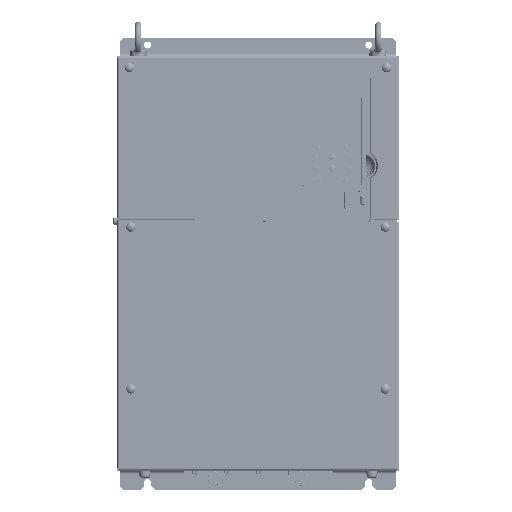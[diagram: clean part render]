
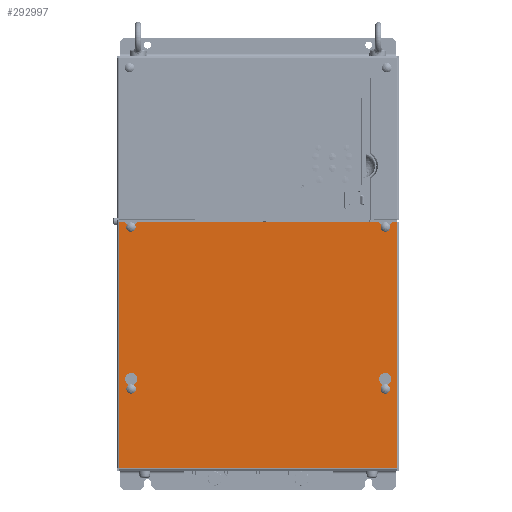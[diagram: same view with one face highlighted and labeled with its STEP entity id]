
A CAD part, top view. The second image highlights one B-rep face of the part: STEP entity #292997.
In plain terms, the highlighted planar face has unit normal (0, 0, 1) as drawn and (0, 1, 0) by its records, which use the part's own axes.
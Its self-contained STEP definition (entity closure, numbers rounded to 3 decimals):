
#292090=CARTESIAN_POINT('',(126.4,0.,-79.5));
#292091=DIRECTION('',(0.,1.,0.));
#292092=DIRECTION('',(-1.,0.,0.));
#292093=AXIS2_PLACEMENT_3D('',#292090,#292091,#292092);
#292095=DIRECTION('',(0.,0.,1.));
#292096=VECTOR('',#292095,4.804);
#292097=CARTESIAN_POINT('',(129.4,0.,-84.304));
#292098=LINE('',#292097,#292096);
#292099=CARTESIAN_POINT('',(126.4,0.,-89.5));
#292100=DIRECTION('',(0.,1.,0.));
#292101=DIRECTION('',(0.5,0.,0.866));
#292102=AXIS2_PLACEMENT_3D('',#292099,#292100,#292101);
#292104=DIRECTION('',(0.,0.,-1.));
#292105=VECTOR('',#292104,4.804);
#292106=CARTESIAN_POINT('',(123.4,0.,-79.5));
#292107=LINE('',#292106,#292105);
#292108=CARTESIAN_POINT('',(-126.4,0.,-79.5));
#292109=DIRECTION('',(0.,1.,0.));
#292110=DIRECTION('',(-1.,0.,0.));
#292111=AXIS2_PLACEMENT_3D('',#292108,#292109,#292110);
#292113=DIRECTION('',(0.,0.,1.));
#292114=VECTOR('',#292113,4.804);
#292115=CARTESIAN_POINT('',(-123.4,0.,-84.304));
#292116=LINE('',#292115,#292114);
#292117=CARTESIAN_POINT('',(-126.4,0.,-89.5));
#292118=DIRECTION('',(0.,1.,0.));
#292119=DIRECTION('',(0.5,0.,0.866));
#292120=AXIS2_PLACEMENT_3D('',#292117,#292118,#292119);
#292122=DIRECTION('',(0.,0.,-1.));
#292123=VECTOR('',#292122,4.804);
#292124=CARTESIAN_POINT('',(-129.4,0.,-79.5));
#292125=LINE('',#292124,#292123);
#292126=DIRECTION('',(-0.707,0.,-0.707));
#292127=VECTOR('',#292126,5.657);
#292128=CARTESIAN_POINT('',(123.5,0.,-241.7));
#292129=LINE('',#292128,#292127);
#292130=DIRECTION('',(0.,0.,1.));
#292131=VECTOR('',#292130,1.1);
#292132=CARTESIAN_POINT('',(123.5,0.,-241.7));
#292133=LINE('',#292132,#292131);
#292134=CARTESIAN_POINT('',(126.5,0.,-240.6));
#292135=DIRECTION('',(0.,1.,0.));
#292136=DIRECTION('',(-1.,0.,0.));
#292137=AXIS2_PLACEMENT_3D('',#292134,#292135,#292136);
#292139=DIRECTION('',(0.,0.,1.));
#292140=VECTOR('',#292139,1.1);
#292141=CARTESIAN_POINT('',(129.5,0.,-241.7));
#292142=LINE('',#292141,#292140);
#292143=DIRECTION('',(-0.707,0.,0.707));
#292144=VECTOR('',#292143,5.657);
#292145=CARTESIAN_POINT('',(133.5,0.,-245.7));
#292146=LINE('',#292145,#292144);
#292147=DIRECTION('',(-1.,0.,0.));
#292148=VECTOR('',#292147,4.5);
#292149=CARTESIAN_POINT('',(138.,0.,-245.7));
#292150=LINE('',#292149,#292148);
#292151=DIRECTION('',(-1.,0.,0.));
#292152=VECTOR('',#292151,4.5);
#292153=CARTESIAN_POINT('',(-133.5,0.,-245.7));
#292154=LINE('',#292153,#292152);
#292155=DIRECTION('',(-0.707,0.,-0.707));
#292156=VECTOR('',#292155,5.657);
#292157=CARTESIAN_POINT('',(-129.5,0.,-241.7));
#292158=LINE('',#292157,#292156);
#292159=DIRECTION('',(0.,0.,1.));
#292160=VECTOR('',#292159,1.1);
#292161=CARTESIAN_POINT('',(-129.5,0.,-241.7));
#292162=LINE('',#292161,#292160);
#292163=CARTESIAN_POINT('',(-126.5,0.,-240.6));
#292164=DIRECTION('',(0.,1.,0.));
#292165=DIRECTION('',(-1.,0.,0.));
#292166=AXIS2_PLACEMENT_3D('',#292163,#292164,#292165);
#292168=DIRECTION('',(0.,0.,1.));
#292169=VECTOR('',#292168,1.1);
#292170=CARTESIAN_POINT('',(-123.5,0.,-241.7));
#292171=LINE('',#292170,#292169);
#292172=DIRECTION('',(-0.707,0.,0.707));
#292173=VECTOR('',#292172,5.657);
#292174=CARTESIAN_POINT('',(-119.5,0.,-245.7));
#292175=LINE('',#292174,#292173);
#292176=DIRECTION('',(-1.,0.,0.));
#292177=VECTOR('',#292176,239.);
#292178=CARTESIAN_POINT('',(119.5,0.,-245.7));
#292179=LINE('',#292178,#292177);
#292619=DIRECTION('',(0.,0.,1.));
#292620=VECTOR('',#292619,245.2);
#292621=CARTESIAN_POINT('',(-138.,0.,-245.7));
#292622=LINE('',#292621,#292620);
#292670=DIRECTION('',(1.,0.,0.));
#292671=VECTOR('',#292670,276.);
#292672=CARTESIAN_POINT('',(-138.,0.,-0.5));
#292673=LINE('',#292672,#292671);
#292712=DIRECTION('',(0.,0.,-1.));
#292713=VECTOR('',#292712,245.2);
#292714=CARTESIAN_POINT('',(138.,0.,-0.5));
#292715=LINE('',#292714,#292713);
#292766=CARTESIAN_POINT('',(123.4,0.,-79.5));
#292767=CARTESIAN_POINT('',(129.4,0.,-79.5));
#292768=VERTEX_POINT('',#292766);
#292769=VERTEX_POINT('',#292767);
#292770=CARTESIAN_POINT('',(123.4,0.,-84.304));
#292771=VERTEX_POINT('',#292770);
#292772=CARTESIAN_POINT('',(129.4,0.,-84.304));
#292773=VERTEX_POINT('',#292772);
#292774=CARTESIAN_POINT('',(-129.4,0.,-79.5));
#292775=CARTESIAN_POINT('',(-123.4,0.,-79.5));
#292776=VERTEX_POINT('',#292774);
#292777=VERTEX_POINT('',#292775);
#292778=CARTESIAN_POINT('',(-129.4,0.,-84.304));
#292779=VERTEX_POINT('',#292778);
#292780=CARTESIAN_POINT('',(-123.4,0.,-84.304));
#292781=VERTEX_POINT('',#292780);
#292798=CARTESIAN_POINT('',(123.5,0.,-240.6));
#292799=CARTESIAN_POINT('',(129.5,0.,-240.6));
#292800=VERTEX_POINT('',#292798);
#292801=VERTEX_POINT('',#292799);
#292802=CARTESIAN_POINT('',(-129.5,0.,-240.6));
#292803=CARTESIAN_POINT('',(-123.5,0.,-240.6));
#292804=VERTEX_POINT('',#292802);
#292805=VERTEX_POINT('',#292803);
#292814=CARTESIAN_POINT('',(123.5,0.,-241.7));
#292815=CARTESIAN_POINT('',(119.5,0.,-245.7));
#292816=VERTEX_POINT('',#292814);
#292817=VERTEX_POINT('',#292815);
#292822=CARTESIAN_POINT('',(133.5,0.,-245.7));
#292823=CARTESIAN_POINT('',(129.5,0.,-241.7));
#292824=VERTEX_POINT('',#292822);
#292825=VERTEX_POINT('',#292823);
#292830=CARTESIAN_POINT('',(-119.5,0.,-245.7));
#292831=CARTESIAN_POINT('',(-123.5,0.,-241.7));
#292832=VERTEX_POINT('',#292830);
#292833=VERTEX_POINT('',#292831);
#292838=CARTESIAN_POINT('',(-129.5,0.,-241.7));
#292839=CARTESIAN_POINT('',(-133.5,0.,-245.7));
#292840=VERTEX_POINT('',#292838);
#292841=VERTEX_POINT('',#292839);
#292846=CARTESIAN_POINT('',(138.,0.,-245.7));
#292847=VERTEX_POINT('',#292846);
#292848=CARTESIAN_POINT('',(-138.,0.,-245.7));
#292849=VERTEX_POINT('',#292848);
#292868=CARTESIAN_POINT('',(138.,0.,-0.5));
#292869=VERTEX_POINT('',#292868);
#292884=CARTESIAN_POINT('',(-138.,0.,-0.5));
#292885=VERTEX_POINT('',#292884);
#292938=CARTESIAN_POINT('',(0.,0.,0.));
#292939=DIRECTION('',(0.,1.,0.));
#292940=DIRECTION('',(1.,0.,0.));
#292941=AXIS2_PLACEMENT_3D('',#292938,#292939,#292940);
#292942=PLANE('',#292941);
#292944=ORIENTED_EDGE('',*,*,#292943,.F.);
#292946=ORIENTED_EDGE('',*,*,#292945,.T.);
#292948=ORIENTED_EDGE('',*,*,#292947,.T.);
#292950=ORIENTED_EDGE('',*,*,#292949,.F.);
#292952=ORIENTED_EDGE('',*,*,#292951,.F.);
#292954=ORIENTED_EDGE('',*,*,#292953,.F.);
#292956=ORIENTED_EDGE('',*,*,#292955,.F.);
#292958=ORIENTED_EDGE('',*,*,#292957,.F.);
#292960=ORIENTED_EDGE('',*,*,#292959,.F.);
#292962=ORIENTED_EDGE('',*,*,#292961,.F.);
#292964=ORIENTED_EDGE('',*,*,#292963,.F.);
#292966=ORIENTED_EDGE('',*,*,#292965,.T.);
#292968=ORIENTED_EDGE('',*,*,#292967,.T.);
#292970=ORIENTED_EDGE('',*,*,#292969,.F.);
#292972=ORIENTED_EDGE('',*,*,#292971,.F.);
#292974=ORIENTED_EDGE('',*,*,#292973,.F.);
#292975=EDGE_LOOP('',(#292944,#292946,#292948,#292950,#292952,#292954,#292956,
#292958,#292960,#292962,#292964,#292966,#292968,#292970,#292972,#292974));
#292976=FACE_OUTER_BOUND('',#292975,.F.);
#292978=ORIENTED_EDGE('',*,*,#292977,.T.);
#292980=ORIENTED_EDGE('',*,*,#292979,.F.);
#292982=ORIENTED_EDGE('',*,*,#292981,.T.);
#292984=ORIENTED_EDGE('',*,*,#292983,.F.);
#292985=EDGE_LOOP('',(#292978,#292980,#292982,#292984));
#292986=FACE_BOUND('',#292985,.F.);
#292988=ORIENTED_EDGE('',*,*,#292987,.T.);
#292990=ORIENTED_EDGE('',*,*,#292989,.F.);
#292992=ORIENTED_EDGE('',*,*,#292991,.T.);
#292994=ORIENTED_EDGE('',*,*,#292993,.F.);
#292995=EDGE_LOOP('',(#292988,#292990,#292992,#292994));
#292996=FACE_BOUND('',#292995,.F.);
#292997=ADVANCED_FACE('',(#292976,#292986,#292996),#292942,.T.);
#292094=CIRCLE('',#292093,3.);
#292103=CIRCLE('',#292102,6.);
#292112=CIRCLE('',#292111,3.);
#292121=CIRCLE('',#292120,6.);
#292138=CIRCLE('',#292137,3.);
#292167=CIRCLE('',#292166,3.);
#292943=EDGE_CURVE('',#292816,#292817,#292129,.T.);
#292945=EDGE_CURVE('',#292816,#292800,#292133,.T.);
#292947=EDGE_CURVE('',#292800,#292801,#292138,.T.);
#292949=EDGE_CURVE('',#292825,#292801,#292142,.T.);
#292951=EDGE_CURVE('',#292824,#292825,#292146,.T.);
#292953=EDGE_CURVE('',#292847,#292824,#292150,.T.);
#292955=EDGE_CURVE('',#292869,#292847,#292715,.T.);
#292957=EDGE_CURVE('',#292885,#292869,#292673,.T.);
#292959=EDGE_CURVE('',#292849,#292885,#292622,.T.);
#292961=EDGE_CURVE('',#292841,#292849,#292154,.T.);
#292963=EDGE_CURVE('',#292840,#292841,#292158,.T.);
#292965=EDGE_CURVE('',#292840,#292804,#292162,.T.);
#292967=EDGE_CURVE('',#292804,#292805,#292167,.T.);
#292969=EDGE_CURVE('',#292833,#292805,#292171,.T.);
#292971=EDGE_CURVE('',#292832,#292833,#292175,.T.);
#292973=EDGE_CURVE('',#292817,#292832,#292179,.T.);
#292977=EDGE_CURVE('',#292768,#292769,#292094,.T.);
#292979=EDGE_CURVE('',#292773,#292769,#292098,.T.);
#292981=EDGE_CURVE('',#292773,#292771,#292103,.T.);
#292983=EDGE_CURVE('',#292768,#292771,#292107,.T.);
#292987=EDGE_CURVE('',#292776,#292777,#292112,.T.);
#292989=EDGE_CURVE('',#292781,#292777,#292116,.T.);
#292991=EDGE_CURVE('',#292781,#292779,#292121,.T.);
#292993=EDGE_CURVE('',#292776,#292779,#292125,.T.);
